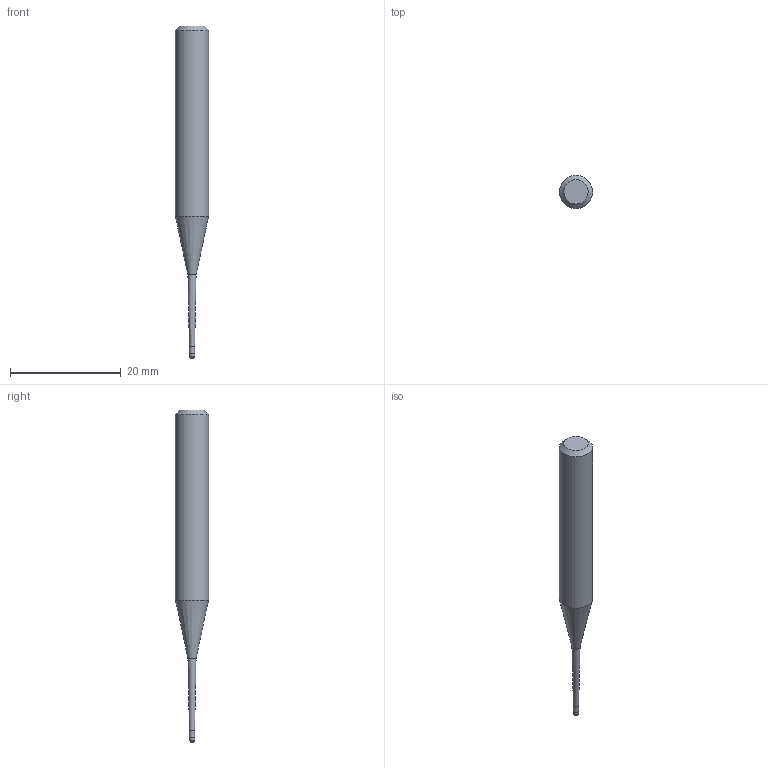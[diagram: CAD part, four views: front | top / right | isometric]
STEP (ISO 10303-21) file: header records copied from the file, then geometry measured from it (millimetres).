
FILE_DESCRIPTION((''),'2;1');
FILE_NAME('C:\Users\nsx150\AppData\Local\Temp\Mastercam 2021\YKS1SUSFZB\TEMP.step','2025-06-23T14:04:07',(''),(''),'STEP Write','Mastercam 2021 ... CNC Software, Inc.','');
FILE_SCHEMA(('AUTOMOTIVE_DESIGN'));
Length unit declared in the file: millimetre
Products named in the file (1): None
Bounding box: 6 x 6 x 60 mm (x, y, z)
Volume: 1113.3 mm3; surface area: 851.3 mm2
Topology: 2 solids, 2 shells, 11 faces, 16 edges, 9 vertices
Faces by surface type: plane 4, cylinder 3, cone 3, torus 1
Full cylindrical faces by diameter (mm): 0.955 x1, 1 x1, 6 x1
Entity records: 253 total; most frequent: DIRECTION 44, CARTESIAN_POINT 31, AXIS2_PLACEMENT_3D 22, ORIENTED_EDGE 18, EDGE_LOOP 18, STYLED_ITEM 14, ADVANCED_FACE 11, FACE_BOUND 11
